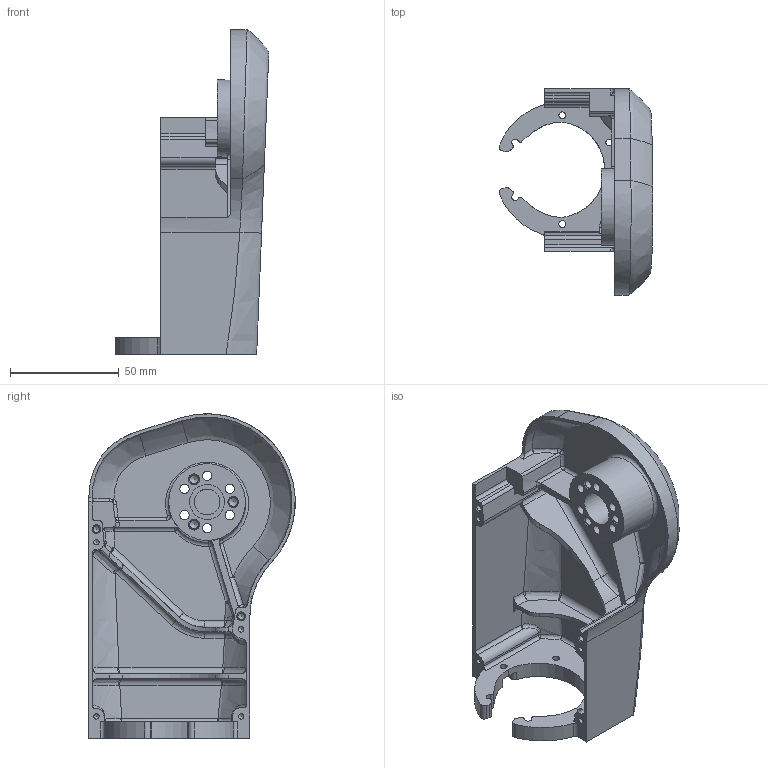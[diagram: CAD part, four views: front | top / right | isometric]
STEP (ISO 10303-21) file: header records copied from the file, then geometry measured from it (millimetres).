
FILE_DESCRIPTION(/* description */ ('STEP AP242 Edition 2','CAx-IF Rec.Pracs.---Representation and Presentation of Product Manufacturing Information (PMI)---4.0---2014-10-13','CAx-IF Rec.Pracs.---3D Tessellated Geometry---0.4---2014-09-14','2;1','CAx-IF Rec.Pracs.---User Defined Attributes---1.5---2016-08-15'),/* implementation_level */ '2;1');
FILE_NAME(/* name */ 'Assy_ForMFG - KC-C-401R_Up_Forearm_Drive',/* time_stamp */ '2026-05-15T19:56:24Z',/* author */ (''),/* organization */ (''),/* preprocessor_version */ 'ST-DEVELOPER v20',/* originating_system */ 'ONSHAPE BY PTC INC, 1.215',/* authorisation */ ' ');
FILE_SCHEMA (('AP242_MANAGED_MODEL_BASED_3D_ENGINEERING_MIM_LF { 1 0 10303 442 3 1 4 }'));
Length unit declared in the file: metre
Products named in the file (1): KC-C-401R_Up_Forearm_Drive
Bounding box: 70.57 x 94.82 x 148.99 mm (x, y, z)
Volume: 79573.6 mm3; surface area: 57431.4 mm2
Topology: 1 solids, 1 shells, 309 faces, 818 edges, 489 vertices
Faces by surface type: cylinder 113, bspline 106, plane 63, cone 14, sphere 8, torus 5
Full cylindrical faces by diameter (mm): 2.5 x4, 3 x2, 3.2 x4, 4 x3, 4.3 x6, 6.5 x2, 8.25 x6, 11.75 x1, 16 x1, 35.25 x1
Entity records: 16141 total; most frequent: CARTESIAN_POINT 9665, ORIENTED_EDGE 1428, DIRECTION 1118, EDGE_CURVE 714, VERTEX_POINT 471, AXIS2_PLACEMENT_3D 459, FACE_BOUND 393, EDGE_LOOP 384
